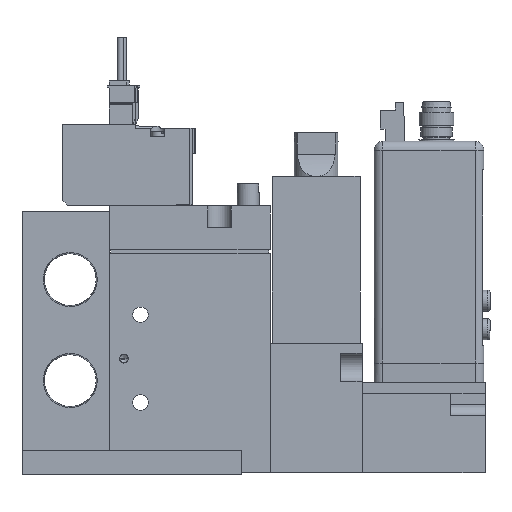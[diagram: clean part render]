
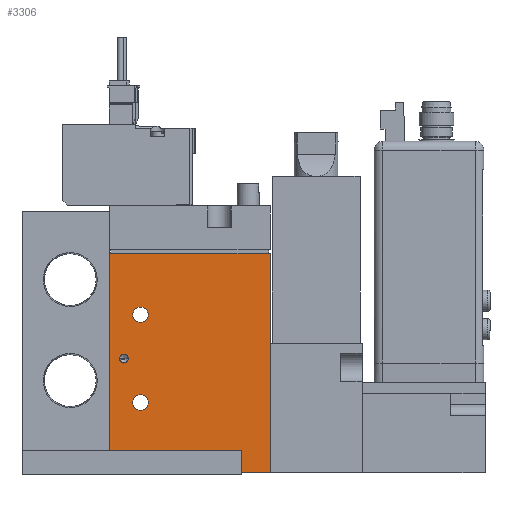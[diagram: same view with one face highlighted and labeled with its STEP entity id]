
A CAD part, left-side view. The second image highlights one B-rep face of the part: STEP entity #3306.
In plain terms, the highlighted planar face has unit normal (-1, 0, 0) as drawn and (1, 0, 0) by its records, which use the part's own axes.
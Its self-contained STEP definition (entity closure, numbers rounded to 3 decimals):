
#3306=ADVANCED_FACE('',(#6879,#6880,#6881,#6882),#6883,.F.);
#6879=FACE_BOUND('',#12286,.T.);
#6880=FACE_BOUND('',#12287,.T.);
#6881=FACE_BOUND('',#12288,.T.);
#6882=FACE_OUTER_BOUND('',#12289,.T.);
#6883=PLANE('',#12290);
#12286=EDGE_LOOP('',(#22820));
#12287=EDGE_LOOP('',(#22821));
#12288=EDGE_LOOP('',(#22822));
#12289=EDGE_LOOP('',(#22823,#22824,#22825,#22826));
#12290=AXIS2_PLACEMENT_3D('',#22827,#22828,#22829);
#22820=ORIENTED_EDGE('',*,*,#36476,.F.);
#22821=ORIENTED_EDGE('',*,*,#36477,.T.);
#22822=ORIENTED_EDGE('',*,*,#36478,.T.);
#22823=ORIENTED_EDGE('',*,*,#36471,.T.);
#22824=ORIENTED_EDGE('',*,*,#36468,.F.);
#22825=ORIENTED_EDGE('',*,*,#36479,.F.);
#22826=ORIENTED_EDGE('',*,*,#36473,.T.);
#22827=CARTESIAN_POINT('',(8.5,-19.444,50.0));
#22828=DIRECTION('',(-1.0,0.0,0.0));
#22829=DIRECTION('',(0.0,0.0,1.0));
#36468=EDGE_CURVE('',#43896,#43894,#43898,.T.);
#36471=EDGE_CURVE('',#43903,#43894,#43904,.T.);
#36473=EDGE_CURVE('',#43906,#43903,#43907,.T.);
#36476=EDGE_CURVE('',#43911,#43911,#43912,.T.);
#36477=EDGE_CURVE('',#43913,#43913,#43914,.T.);
#36478=EDGE_CURVE('',#43915,#43915,#43916,.T.);
#36479=EDGE_CURVE('',#43906,#43896,#43917,.T.);
#43894=VERTEX_POINT('',#55702);
#43896=VERTEX_POINT('',#55705);
#43898=LINE('',#55708,#55709);
#43903=VERTEX_POINT('',#55714);
#43904=LINE('',#55715,#55716);
#43906=VERTEX_POINT('',#55719);
#43907=LINE('',#55720,#55721);
#43911=VERTEX_POINT('',#55726);
#43912=CIRCLE('',#55727,1.0);
#43913=VERTEX_POINT('',#55728);
#43914=CIRCLE('',#55729,1.75);
#43915=VERTEX_POINT('',#55730);
#43916=CIRCLE('',#55731,1.75);
#43917=LINE('',#55732,#55733);
#55702=CARTESIAN_POINT('',(8.5,17.056,0.0));
#55705=CARTESIAN_POINT('',(8.5,17.056,50.0));
#55708=CARTESIAN_POINT('',(8.5,17.056,50.0));
#55709=VECTOR('',#67685,1.0);
#55714=CARTESIAN_POINT('',(8.5,-19.444,0.0));
#55715=CARTESIAN_POINT('',(8.5,-19.444,0.0));
#55716=VECTOR('',#67692,1.0);
#55719=CARTESIAN_POINT('',(8.5,-19.444,50.0));
#55720=CARTESIAN_POINT('',(8.5,-19.444,50.0));
#55721=VECTOR('',#67694,1.0);
#55726=CARTESIAN_POINT('',(8.5,-17.244,26.0));
#55727=AXIS2_PLACEMENT_3D('',#67699,#67700,#67701);
#55728=CARTESIAN_POINT('',(8.5,-10.694,36.0));
#55729=AXIS2_PLACEMENT_3D('',#67702,#67703,#67704);
#55730=CARTESIAN_POINT('',(8.5,-10.694,16.0));
#55731=AXIS2_PLACEMENT_3D('',#67705,#67706,#67707);
#55732=CARTESIAN_POINT('',(8.5,-19.444,50.0));
#55733=VECTOR('',#67708,1.0);
#67685=DIRECTION('',(0.0,0.0,-1.0));
#67692=DIRECTION('',(0.0,1.0,0.0));
#67694=DIRECTION('',(0.0,0.0,-1.0));
#67699=CARTESIAN_POINT('',(8.5,-16.244,26.0));
#67700=DIRECTION('',(1.0,0.,0.0));
#67701=DIRECTION('',(0.,-1.0,0.0));
#67702=CARTESIAN_POINT('',(8.5,-12.444,36.0));
#67703=DIRECTION('',(-1.0,0.0,0.0));
#67704=DIRECTION('',(0.0,1.0,0.0));
#67705=CARTESIAN_POINT('',(8.5,-12.444,16.0));
#67706=DIRECTION('',(-1.0,0.0,0.0));
#67707=DIRECTION('',(0.0,1.0,0.0));
#67708=DIRECTION('',(0.0,1.0,0.0));
